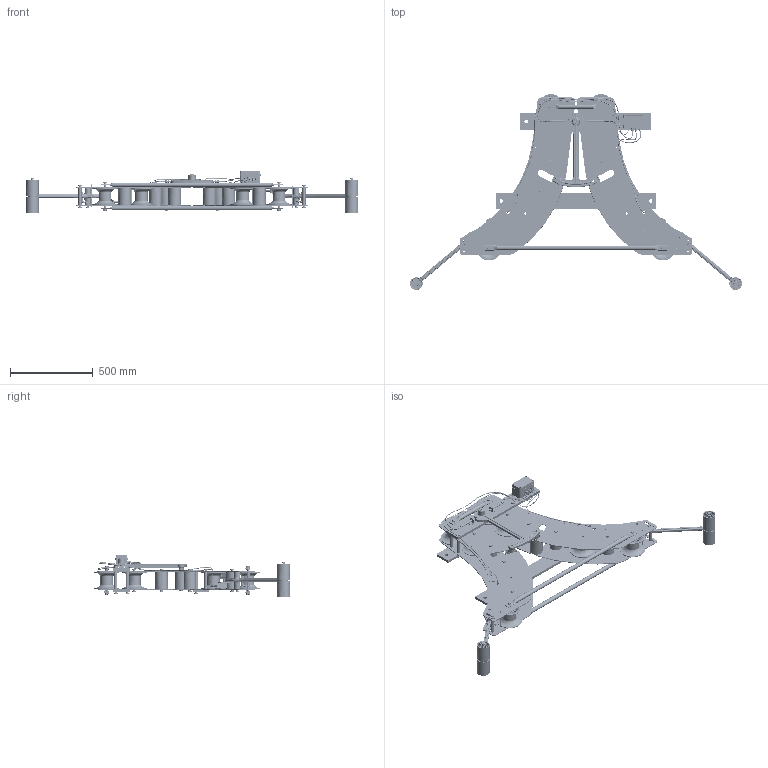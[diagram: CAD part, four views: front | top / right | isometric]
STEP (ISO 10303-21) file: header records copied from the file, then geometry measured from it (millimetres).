
FILE_DESCRIPTION(/* description */ (''),/* implementation_level */ '2;1');
FILE_NAME(/* name */ 'C:\Users\vlakrc01\Desktop\STP\01DEC_1\84903.stp',/* time_stamp */ '2017-12-01T12:24:00+01:00',/* author */ ('vlakrc01'),/* organization */ ('Hillmar Industries Ltd.'),/* preprocessor_version */ 'ST-DEVELOPER v16.1',/* originating_system */ 'Autodesk Inventor 2016',/* authorisation */ '');
FILE_SCHEMA (('AUTOMOTIVE_DESIGN { 1 0 10303 214 3 1 1 }'));
Products named in the file (1): 84903_Shrinkwrap_1
Bounding box: 2000.66 x 1179.91 x 256.1 mm (x, y, z)
Volume: 17160446.8 mm3; surface area: 5780989.1 mm2
Topology: 61 solids, 120 shells, 14881 faces, 37788 edges, 23167 vertices
Faces by surface type: plane 5029, bspline 4977, cylinder 2601, torus 1291, cone 955, sphere 28
Full cylindrical faces by diameter (mm): 1 x8, 1.33 x8, 3 x6, 3.242 x30, 3.5 x10, 4 x12, 4.5 x8, 4.917 x4, 5 x4, 5.5 x16, 6 x2, 6.647 x4, 7 x4, 8 x20, 8.376 x4, 9 x24, 9.2 x2, 10 x6, 10.106 x20, 10.38 x2, 10.4 x2, 10.6 x4, 10.773 x4, 11.053 x26, 11.5 x4, 12 x54, 12.5 x4, 13 x70, 13.2 x2, 13.546 x1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
Entity records: 625396 total; most frequent: CARTESIAN_POINT 296421, ORIENTED_EDGE 72012, DIRECTION 53594, EDGE_CURVE 35753, AXIS2_PLACEMENT_3D 22549, VERTEX_POINT 22515, EDGE_LOOP 16964, FACE_OUTER_BOUND 14881
